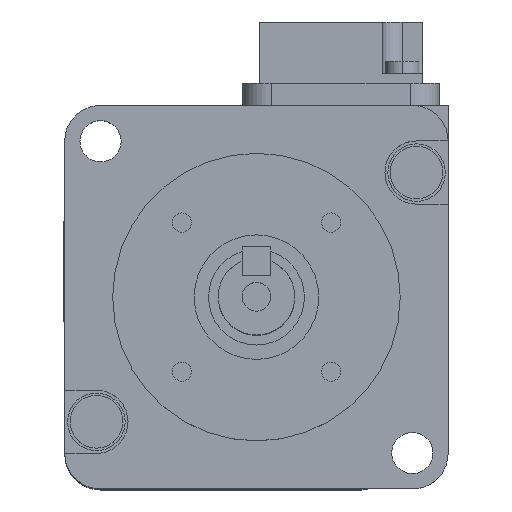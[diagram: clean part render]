
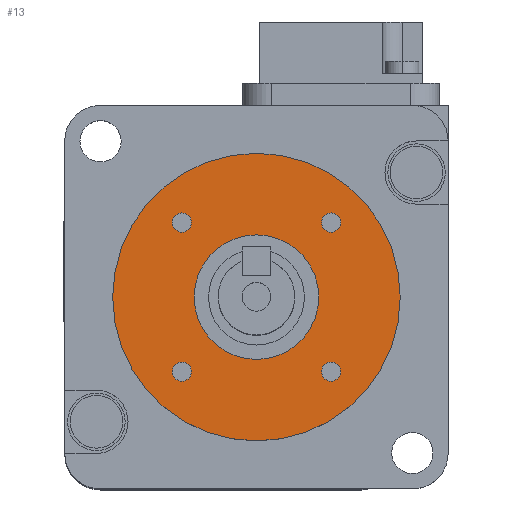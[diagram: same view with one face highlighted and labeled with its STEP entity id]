
A CAD part, top view. The second image highlights one B-rep face of the part: STEP entity #13.
In plain terms, the highlighted planar face has unit normal (0, 0, 1).
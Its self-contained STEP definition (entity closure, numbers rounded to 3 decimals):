
#1 = EDGE_LOOP ( 'NONE', ( #2, #26 ) ) ;
#2 = ORIENTED_EDGE ( 'NONE', *, *, #28, .F. ) ;
#3 = ORIENTED_EDGE ( 'NONE', *, *, #5274, .F. ) ;
#4 = EDGE_LOOP ( 'NONE', ( #5, #3 ) ) ;
#5 = ORIENTED_EDGE ( 'NONE', *, *, #8, .F. ) ;
#6 = ORIENTED_EDGE ( 'NONE', *, *, #5191, .F. ) ;
#8 = EDGE_CURVE ( 'NONE', #5275, #5272, #6529, .T. ) ;
#10 = EDGE_LOOP ( 'NONE', ( #11, #6 ) ) ;
#11 = ORIENTED_EDGE ( 'NONE', *, *, #12, .F. ) ;
#12 = EDGE_CURVE ( 'NONE', #5192, #5189, #6524, .T. ) ;
#13 = ADVANCED_FACE ( 'NONE', ( #6519, #6518, #6517, #6516, #6515, #6514 ), #6513, .T. ) ;
#14 = EDGE_CURVE ( 'NONE', #5535, #5534, #6508, .T. ) ;
#15 = ORIENTED_EDGE ( 'NONE', *, *, #14, .F. ) ;
#16 = ORIENTED_EDGE ( 'NONE', *, *, #5533, .F. ) ;
#17 = EDGE_LOOP ( 'NONE', ( #16, #15 ) ) ;
#18 = ORIENTED_EDGE ( 'NONE', *, *, #5519, .T. ) ;
#19 = EDGE_CURVE ( 'NONE', #5521, #5520, #6503, .T. ) ;
#20 = EDGE_LOOP ( 'NONE', ( #21, #18 ) ) ;
#21 = ORIENTED_EDGE ( 'NONE', *, *, #19, .T. ) ;
#22 = ORIENTED_EDGE ( 'NONE', *, *, #5258, .F. ) ;
#23 = EDGE_LOOP ( 'NONE', ( #27, #22 ) ) ;
#24 = EDGE_CURVE ( 'NONE', #5259, #5256, #6563, .T. ) ;
#26 = ORIENTED_EDGE ( 'NONE', *, *, #5328, .F. ) ;
#27 = ORIENTED_EDGE ( 'NONE', *, *, #24, .F. ) ;
#28 = EDGE_CURVE ( 'NONE', #5329, #5326, #6558, .T. ) ;
#417 = CARTESIAN_POINT ( 'NONE',  ( 8.778, -7.778, 2.5 ) ) ;
#418 = DIRECTION ( 'NONE',  ( 0., -1., 0. ) ) ;
#419 = DIRECTION ( 'NONE',  ( 0., 0., 1. ) ) ;
#420 = CARTESIAN_POINT ( 'NONE',  ( 7.778, -7.778, 2.5 ) ) ;
#421 = AXIS2_PLACEMENT_3D ( 'NONE', #420, #419, #418 ) ;
#422 = CIRCLE ( 'NONE', #421, 1. ) ;
#423 = CARTESIAN_POINT ( 'NONE',  ( 6.778, -7.778, 2.5 ) ) ;
#594 = CARTESIAN_POINT ( 'NONE',  ( 8.778, 7.778, 2.5 ) ) ;
#595 = DIRECTION ( 'NONE',  ( 1., 0., 0. ) ) ;
#596 = DIRECTION ( 'NONE',  ( 0., 0., 1. ) ) ;
#597 = CARTESIAN_POINT ( 'NONE',  ( 7.778, 7.778, 2.5 ) ) ;
#598 = AXIS2_PLACEMENT_3D ( 'NONE', #597, #596, #595 ) ;
#599 = CIRCLE ( 'NONE', #598, 1. ) ;
#600 = CARTESIAN_POINT ( 'NONE',  ( 6.778, 7.778, 2.5 ) ) ;
#622 = CARTESIAN_POINT ( 'NONE',  ( -6.778, -7.778, 2.5 ) ) ;
#623 = DIRECTION ( 'NONE',  ( -1., 0., 0. ) ) ;
#624 = DIRECTION ( 'NONE',  ( 0., 0., 1. ) ) ;
#625 = CARTESIAN_POINT ( 'NONE',  ( -7.778, -7.778, 2.5 ) ) ;
#626 = AXIS2_PLACEMENT_3D ( 'NONE', #625, #624, #623 ) ;
#627 = CIRCLE ( 'NONE', #626, 1. ) ;
#628 = CARTESIAN_POINT ( 'NONE',  ( -8.778, -7.778, 2.5 ) ) ;
#710 = CARTESIAN_POINT ( 'NONE',  ( -6.778, 7.778, 2.5 ) ) ;
#711 = DIRECTION ( 'NONE',  ( 0., 1., 0. ) ) ;
#712 = DIRECTION ( 'NONE',  ( 0., 0., 1. ) ) ;
#713 = CARTESIAN_POINT ( 'NONE',  ( -7.778, 7.778, 2.5 ) ) ;
#714 = AXIS2_PLACEMENT_3D ( 'NONE', #713, #712, #711 ) ;
#715 = CIRCLE ( 'NONE', #714, 1. ) ;
#716 = CARTESIAN_POINT ( 'NONE',  ( -8.778, 7.778, 2.5 ) ) ;
#1116 = CARTESIAN_POINT ( 'NONE',  ( -6.5, 0., 2.5 ) ) ;
#1117 = CARTESIAN_POINT ( 'NONE',  ( 6.5, 0., 2.5 ) ) ;
#1118 = DIRECTION ( 'NONE',  ( -1., 0., 0. ) ) ;
#1119 = DIRECTION ( 'NONE',  ( 0., 0., -1. ) ) ;
#1120 = AXIS2_PLACEMENT_3D ( 'NONE', #1126, #1119, #1118 ) ;
#1121 = CIRCLE ( 'NONE', #1120, 6.5 ) ;
#1126 = CARTESIAN_POINT ( 'NONE',  ( 0., 0., 2.5 ) ) ;
#1152 = CARTESIAN_POINT ( 'NONE',  ( 15., 0., 2.5 ) ) ;
#1153 = CARTESIAN_POINT ( 'NONE',  ( -15., 0., 2.5 ) ) ;
#1154 = DIRECTION ( 'NONE',  ( -1., 0., 0. ) ) ;
#1155 = DIRECTION ( 'NONE',  ( 0., 0., -1. ) ) ;
#1156 = AXIS2_PLACEMENT_3D ( 'NONE', #1163, #1155, #1154 ) ;
#1157 = CIRCLE ( 'NONE', #1156, 15. ) ;
#1163 = CARTESIAN_POINT ( 'NONE',  ( 0., 0., 2.5 ) ) ;
#5189 = VERTEX_POINT ( 'NONE', #423 ) ;
#5191 = EDGE_CURVE ( 'NONE', #5189, #5192, #422, .T. ) ;
#5192 = VERTEX_POINT ( 'NONE', #417 ) ;
#5256 = VERTEX_POINT ( 'NONE', #600 ) ;
#5258 = EDGE_CURVE ( 'NONE', #5256, #5259, #599, .T. ) ;
#5259 = VERTEX_POINT ( 'NONE', #594 ) ;
#5272 = VERTEX_POINT ( 'NONE', #628 ) ;
#5274 = EDGE_CURVE ( 'NONE', #5272, #5275, #627, .T. ) ;
#5275 = VERTEX_POINT ( 'NONE', #622 ) ;
#5326 = VERTEX_POINT ( 'NONE', #716 ) ;
#5328 = EDGE_CURVE ( 'NONE', #5326, #5329, #715, .T. ) ;
#5329 = VERTEX_POINT ( 'NONE', #710 ) ;
#5519 = EDGE_CURVE ( 'NONE', #5520, #5521, #1121, .T. ) ;
#5520 = VERTEX_POINT ( 'NONE', #1117 ) ;
#5521 = VERTEX_POINT ( 'NONE', #1116 ) ;
#5533 = EDGE_CURVE ( 'NONE', #5534, #5535, #1157, .T. ) ;
#5534 = VERTEX_POINT ( 'NONE', #1153 ) ;
#5535 = VERTEX_POINT ( 'NONE', #1152 ) ;
#6499 = DIRECTION ( 'NONE',  ( -1., 0., 0. ) ) ;
#6500 = DIRECTION ( 'NONE',  ( 0., 0., -1. ) ) ;
#6501 = CARTESIAN_POINT ( 'NONE',  ( 0., 0., 2.5 ) ) ;
#6502 = AXIS2_PLACEMENT_3D ( 'NONE', #6501, #6500, #6499 ) ;
#6503 = CIRCLE ( 'NONE', #6502, 6.5 ) ;
#6504 = DIRECTION ( 'NONE',  ( -1., 0., 0. ) ) ;
#6505 = DIRECTION ( 'NONE',  ( 0., 0., -1. ) ) ;
#6506 = CARTESIAN_POINT ( 'NONE',  ( 0., 0., 2.5 ) ) ;
#6507 = AXIS2_PLACEMENT_3D ( 'NONE', #6506, #6505, #6504 ) ;
#6508 = CIRCLE ( 'NONE', #6507, 15. ) ;
#6509 = DIRECTION ( 'NONE',  ( 1., 0., 0. ) ) ;
#6510 = DIRECTION ( 'NONE',  ( 0., 0., 1. ) ) ;
#6511 = CARTESIAN_POINT ( 'NONE',  ( 0., 15., 2.5 ) ) ;
#6512 = AXIS2_PLACEMENT_3D ( 'NONE', #6511, #6510, #6509 ) ;
#6513 = PLANE ( 'NONE',  #6512 ) ;
#6514 = FACE_OUTER_BOUND ( 'NONE', #17, .T. ) ;
#6515 = FACE_BOUND ( 'NONE', #20, .T. ) ;
#6516 = FACE_BOUND ( 'NONE', #23, .T. ) ;
#6517 = FACE_BOUND ( 'NONE', #1, .T. ) ;
#6518 = FACE_BOUND ( 'NONE', #4, .T. ) ;
#6519 = FACE_BOUND ( 'NONE', #10, .T. ) ;
#6520 = DIRECTION ( 'NONE',  ( 0., -1., 0. ) ) ;
#6521 = DIRECTION ( 'NONE',  ( 0., 0., 1. ) ) ;
#6522 = CARTESIAN_POINT ( 'NONE',  ( 7.778, -7.778, 2.5 ) ) ;
#6523 = AXIS2_PLACEMENT_3D ( 'NONE', #6522, #6521, #6520 ) ;
#6524 = CIRCLE ( 'NONE', #6523, 1. ) ;
#6525 = DIRECTION ( 'NONE',  ( -1., 0., 0. ) ) ;
#6526 = DIRECTION ( 'NONE',  ( 0., 0., 1. ) ) ;
#6527 = CARTESIAN_POINT ( 'NONE',  ( -7.778, -7.778, 2.5 ) ) ;
#6528 = AXIS2_PLACEMENT_3D ( 'NONE', #6527, #6526, #6525 ) ;
#6529 = CIRCLE ( 'NONE', #6528, 1. ) ;
#6554 = DIRECTION ( 'NONE',  ( 0., 1., 0. ) ) ;
#6555 = DIRECTION ( 'NONE',  ( 0., 0., 1. ) ) ;
#6556 = CARTESIAN_POINT ( 'NONE',  ( -7.778, 7.778, 2.5 ) ) ;
#6557 = AXIS2_PLACEMENT_3D ( 'NONE', #6556, #6555, #6554 ) ;
#6558 = CIRCLE ( 'NONE', #6557, 1. ) ;
#6559 = DIRECTION ( 'NONE',  ( 1., 0., 0. ) ) ;
#6560 = DIRECTION ( 'NONE',  ( 0., 0., 1. ) ) ;
#6561 = CARTESIAN_POINT ( 'NONE',  ( 7.778, 7.778, 2.5 ) ) ;
#6562 = AXIS2_PLACEMENT_3D ( 'NONE', #6561, #6560, #6559 ) ;
#6563 = CIRCLE ( 'NONE', #6562, 1. ) ;
